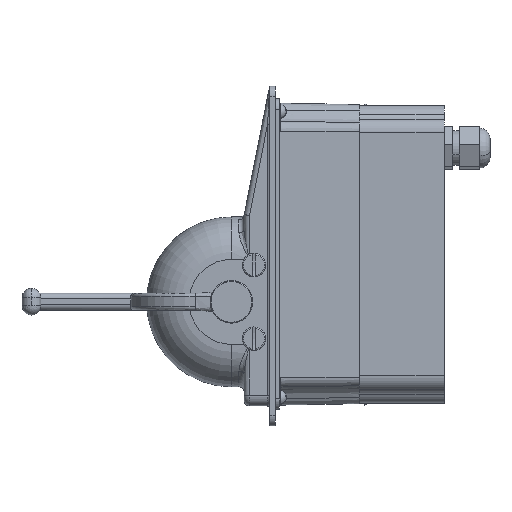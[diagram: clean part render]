
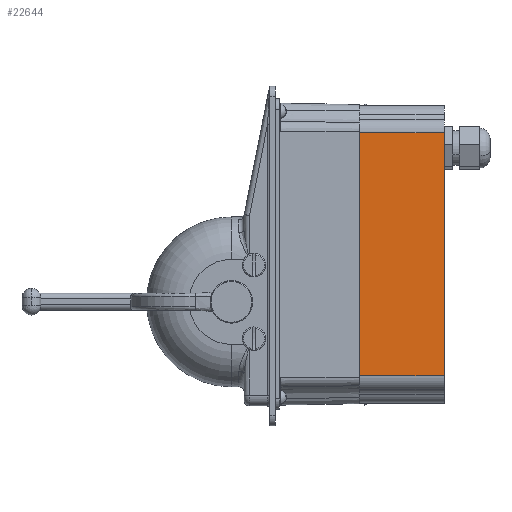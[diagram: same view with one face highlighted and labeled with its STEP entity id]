
A CAD part, left-side view. The second image highlights one B-rep face of the part: STEP entity #22644.
In plain terms, the highlighted planar face has unit normal (-1, 0, 0).
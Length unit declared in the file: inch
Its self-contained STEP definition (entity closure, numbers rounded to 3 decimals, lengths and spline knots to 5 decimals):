
#962 = DIRECTION ( 'NONE',  ( 0., 1., 0. ) ) ;
#3868 = CARTESIAN_POINT ( 'NONE',  ( -1.9875, -2.71, 3.97775 ) ) ;
#4278 = LINE ( 'NONE', #34825, #21875 ) ;
#4296 = LINE ( 'NONE', #19885, #20363 ) ;
#5295 = CARTESIAN_POINT ( 'NONE',  ( -1.9875, -2.71, 3.97775 ) ) ;
#6556 = AXIS2_PLACEMENT_3D ( 'NONE', #40781, #25591, #44384 ) ;
#7306 = DIRECTION ( 'NONE',  ( 0., 1., 0. ) ) ;
#9989 = CARTESIAN_POINT ( 'NONE',  ( -1.9875, -4.71, 3.97775 ) ) ;
#17150 = ORIENTED_EDGE ( 'NONE', *, *, #47879, .T. ) ;
#17361 = FACE_OUTER_BOUND ( 'NONE', #24976, .T. ) ;
#19066 = ORIENTED_EDGE ( 'NONE', *, *, #42718, .F. ) ;
#19885 = CARTESIAN_POINT ( 'NONE',  ( -1.9875, -4.71, 3.97775 ) ) ;
#20363 = VECTOR ( 'NONE', #962, 39.37008 ) ;
#21875 = VECTOR ( 'NONE', #43801, 39.37008 ) ;
#22644 = ADVANCED_FACE ( 'NONE', ( #17361 ), #28692, .F. ) ;
#24976 = EDGE_LOOP ( 'NONE', ( #17150, #19066, #39558, #45528 ) ) ;
#25591 = DIRECTION ( 'NONE',  ( 1., 0., 0. ) ) ;
#25779 = CARTESIAN_POINT ( 'NONE',  ( -1.9875, -4.71, -1.74225 ) ) ;
#26081 = EDGE_CURVE ( 'NONE', #47304, #45604, #4278, .T. ) ;
#27137 = CARTESIAN_POINT ( 'NONE',  ( -1.9875, -2.71, -1.74225 ) ) ;
#27815 = VECTOR ( 'NONE', #7306, 39.37008 ) ;
#28134 = EDGE_CURVE ( 'NONE', #47304, #49002, #4296, .T. ) ;
#28692 = PLANE ( 'NONE',  #6556 ) ;
#32470 = LINE ( 'NONE', #5295, #40358 ) ;
#34024 = LINE ( 'NONE', #25779, #27815 ) ;
#34825 = CARTESIAN_POINT ( 'NONE',  ( -1.9875, -4.71, 3.97775 ) ) ;
#37095 = CARTESIAN_POINT ( 'NONE',  ( -1.9875, -4.71, -1.74225 ) ) ;
#39558 = ORIENTED_EDGE ( 'NONE', *, *, #26081, .F. ) ;
#40358 = VECTOR ( 'NONE', #47374, 39.37008 ) ;
#40781 = CARTESIAN_POINT ( 'NONE',  ( -1.9875, -4.71, 3.97775 ) ) ;
#42718 = EDGE_CURVE ( 'NONE', #45604, #46626, #34024, .T. ) ;
#43801 = DIRECTION ( 'NONE',  ( 0., 0., -1. ) ) ;
#44384 = DIRECTION ( 'NONE',  ( 0., 0., 1. ) ) ;
#45528 = ORIENTED_EDGE ( 'NONE', *, *, #28134, .T. ) ;
#45604 = VERTEX_POINT ( 'NONE', #37095 ) ;
#46626 = VERTEX_POINT ( 'NONE', #27137 ) ;
#47304 = VERTEX_POINT ( 'NONE', #9989 ) ;
#47374 = DIRECTION ( 'NONE',  ( 0., 0., -1. ) ) ;
#47879 = EDGE_CURVE ( 'NONE', #49002, #46626, #32470, .T. ) ;
#49002 = VERTEX_POINT ( 'NONE', #3868 ) ;
